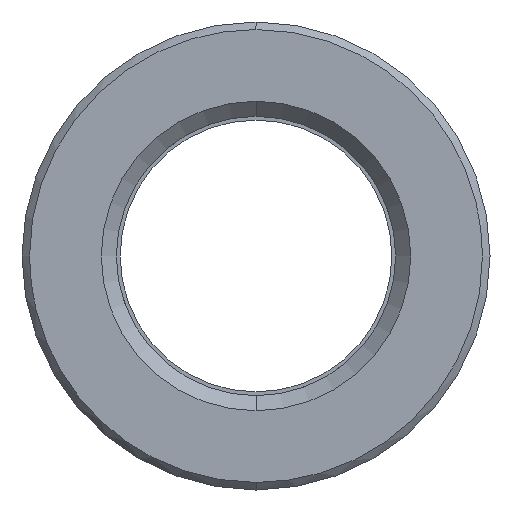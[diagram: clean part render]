
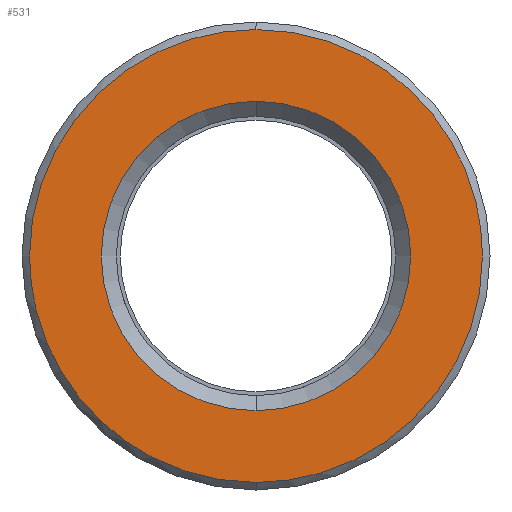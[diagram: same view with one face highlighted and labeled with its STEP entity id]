
A CAD part, left-side view. The second image highlights one B-rep face of the part: STEP entity #531.
In plain terms, the highlighted planar face has unit normal (-1, 0, 0).
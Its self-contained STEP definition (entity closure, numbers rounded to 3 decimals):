
#311=CARTESIAN_POINT('Axis2P3D Location',(0.,0.,0.)) ;
#315=CARTESIAN_POINT('Vertex',(0.,10.25,0.)) ;
#317=CARTESIAN_POINT('Vertex',(0.,0.,10.25)) ;
#320=CARTESIAN_POINT('Axis2P3D Location',(0.,0.,0.)) ;
#324=CARTESIAN_POINT('Vertex',(0.,0.,-10.25)) ;
#351=CARTESIAN_POINT('Axis2P3D Location',(0.,0.,0.)) ;
#355=CARTESIAN_POINT('Vertex',(0.,-10.25,0.)) ;
#358=CARTESIAN_POINT('Axis2P3D Location',(0.,0.,0.)) ;
#438=CARTESIAN_POINT('Axis2P3D Location',(0.,15.,0.)) ;
#444=CARTESIAN_POINT('Control Point',(0.,0.,-15.)) ;
#445=CARTESIAN_POINT('Control Point',(0.,1.359,-15.)) ;
#446=CARTESIAN_POINT('Control Point',(0.,2.718,-14.846)) ;
#447=CARTESIAN_POINT('Control Point',(0.,4.054,-14.538)) ;
#448=CARTESIAN_POINT('Control Point',(0.,6.784,-13.572)) ;
#449=CARTESIAN_POINT('Control Point',(0.,9.211,-11.985)) ;
#450=CARTESIAN_POINT('Control Point',(0.,10.379,-10.99)) ;
#451=CARTESIAN_POINT('Control Point',(0.,12.437,-8.725)) ;
#452=CARTESIAN_POINT('Control Point',(0.,13.866,-6.019)) ;
#453=CARTESIAN_POINT('Control Point',(0.,14.405,-4.583)) ;
#454=CARTESIAN_POINT('Control Point',(0.,14.829,-2.782)) ;
#455=CARTESIAN_POINT('Control Point',(0.,14.975,-0.952)) ;
#456=CARTESIAN_POINT('Control Point',(0.,14.992,-0.635)) ;
#457=CARTESIAN_POINT('Control Point',(0.,15.,-0.317)) ;
#458=CARTESIAN_POINT('Control Point',(0.,15.,0.)) ;
#459=CARTESIAN_POINT('Vertex',(0.,0.,-15.)) ;
#461=CARTESIAN_POINT('Vertex',(0.,15.,0.)) ;
#465=CARTESIAN_POINT('Control Point',(0.,-15.,0.)) ;
#466=CARTESIAN_POINT('Control Point',(0.,-15.,-1.518)) ;
#467=CARTESIAN_POINT('Control Point',(0.,-14.808,-3.036)) ;
#468=CARTESIAN_POINT('Control Point',(0.,-14.424,-4.521)) ;
#469=CARTESIAN_POINT('Control Point',(0.,-13.289,-7.363)) ;
#470=CARTESIAN_POINT('Control Point',(0.,-11.481,-9.832)) ;
#471=CARTESIAN_POINT('Control Point',(0.,-10.425,-10.945)) ;
#472=CARTESIAN_POINT('Control Point',(0.,-8.055,-12.881)) ;
#473=CARTESIAN_POINT('Control Point',(0.,-5.278,-14.165)) ;
#474=CARTESIAN_POINT('Control Point',(0.,-3.815,-14.627)) ;
#475=CARTESIAN_POINT('Control Point',(0.,-2.152,-14.927)) ;
#476=CARTESIAN_POINT('Control Point',(0.,-0.476,-14.994)) ;
#477=CARTESIAN_POINT('Control Point',(0.,-0.317,-14.998)) ;
#478=CARTESIAN_POINT('Control Point',(0.,-0.159,-15.)) ;
#479=CARTESIAN_POINT('Control Point',(0.,0.,-15.)) ;
#480=CARTESIAN_POINT('Vertex',(0.,-15.,0.)) ;
#484=CARTESIAN_POINT('Control Point',(0.,0.,15.)) ;
#485=CARTESIAN_POINT('Control Point',(0.,-1.359,15.)) ;
#486=CARTESIAN_POINT('Control Point',(0.,-2.718,14.846)) ;
#487=CARTESIAN_POINT('Control Point',(0.,-4.054,14.538)) ;
#488=CARTESIAN_POINT('Control Point',(0.,-6.784,13.572)) ;
#489=CARTESIAN_POINT('Control Point',(0.,-9.211,11.985)) ;
#490=CARTESIAN_POINT('Control Point',(0.,-10.379,10.99)) ;
#491=CARTESIAN_POINT('Control Point',(0.,-12.437,8.725)) ;
#492=CARTESIAN_POINT('Control Point',(0.,-13.866,6.019)) ;
#493=CARTESIAN_POINT('Control Point',(0.,-14.405,4.583)) ;
#494=CARTESIAN_POINT('Control Point',(0.,-14.829,2.782)) ;
#495=CARTESIAN_POINT('Control Point',(0.,-14.975,0.952)) ;
#496=CARTESIAN_POINT('Control Point',(0.,-14.992,0.635)) ;
#497=CARTESIAN_POINT('Control Point',(0.,-15.,0.317)) ;
#498=CARTESIAN_POINT('Control Point',(0.,-15.,0.)) ;
#499=CARTESIAN_POINT('Vertex',(0.,0.,15.)) ;
#503=CARTESIAN_POINT('Control Point',(0.,15.,0.)) ;
#504=CARTESIAN_POINT('Control Point',(0.,15.,1.518)) ;
#505=CARTESIAN_POINT('Control Point',(0.,14.808,3.036)) ;
#506=CARTESIAN_POINT('Control Point',(0.,14.424,4.521)) ;
#507=CARTESIAN_POINT('Control Point',(0.,13.289,7.363)) ;
#508=CARTESIAN_POINT('Control Point',(0.,11.481,9.832)) ;
#509=CARTESIAN_POINT('Control Point',(0.,10.425,10.945)) ;
#510=CARTESIAN_POINT('Control Point',(0.,8.055,12.881)) ;
#511=CARTESIAN_POINT('Control Point',(0.,5.278,14.165)) ;
#512=CARTESIAN_POINT('Control Point',(0.,3.815,14.627)) ;
#513=CARTESIAN_POINT('Control Point',(0.,2.152,14.927)) ;
#514=CARTESIAN_POINT('Control Point',(0.,0.476,14.994)) ;
#515=CARTESIAN_POINT('Control Point',(0.,0.317,14.998)) ;
#516=CARTESIAN_POINT('Control Point',(0.,0.159,15.)) ;
#517=CARTESIAN_POINT('Control Point',(0.,0.,15.)) ;
#312=DIRECTION('Axis2P3D Direction',(-1.,0.,0.)) ;
#321=DIRECTION('Axis2P3D Direction',(-1.,0.,0.)) ;
#352=DIRECTION('Axis2P3D Direction',(-1.,0.,0.)) ;
#359=DIRECTION('Axis2P3D Direction',(-1.,0.,0.)) ;
#439=DIRECTION('Axis2P3D Direction',(-1.,0.,0.)) ;
#440=DIRECTION('Axis2P3D XDirection',(0.,0.,1.)) ;
#313=AXIS2_PLACEMENT_3D('Circle Axis2P3D',#311,#312,$) ;
#322=AXIS2_PLACEMENT_3D('Circle Axis2P3D',#320,#321,$) ;
#353=AXIS2_PLACEMENT_3D('Circle Axis2P3D',#351,#352,$) ;
#360=AXIS2_PLACEMENT_3D('Circle Axis2P3D',#358,#359,$) ;
#441=AXIS2_PLACEMENT_3D('Plane Axis2P3D',#438,#439,#440) ;
#520=ORIENTED_EDGE('',*,*,#463,.F.) ;
#521=ORIENTED_EDGE('',*,*,#482,.F.) ;
#522=ORIENTED_EDGE('',*,*,#501,.F.) ;
#523=ORIENTED_EDGE('',*,*,#518,.F.) ;
#526=ORIENTED_EDGE('',*,*,#319,.T.) ;
#527=ORIENTED_EDGE('',*,*,#362,.T.) ;
#528=ORIENTED_EDGE('',*,*,#357,.T.) ;
#529=ORIENTED_EDGE('',*,*,#326,.T.) ;
#530=FACE_BOUND('',#525,.T.) ;
#531=ADVANCED_FACE('553-18X86',(#524,#530),#442,.T.) ;
#443=B_SPLINE_CURVE_WITH_KNOTS('',5,(#444,#445,#446,#447,#448,#449,#450,#451,#452,#453,#454,#455,#456,#457,#458),.UNSPECIFIED.,.F.,.U.,(6,3,3,3,6),(33.321,42.932,53.665,64.398,66.642),.UNSPECIFIED.) ;
#464=B_SPLINE_CURVE_WITH_KNOTS('',5,(#465,#466,#467,#468,#469,#470,#471,#472,#473,#474,#475,#476,#477,#478,#479),.UNSPECIFIED.,.F.,.U.,(6,3,3,3,6),(0.,10.733,21.466,32.199,33.321),.UNSPECIFIED.) ;
#483=B_SPLINE_CURVE_WITH_KNOTS('',5,(#484,#485,#486,#487,#488,#489,#490,#491,#492,#493,#494,#495,#496,#497,#498),.UNSPECIFIED.,.F.,.U.,(6,3,3,3,6),(33.321,42.932,53.665,64.398,66.642),.UNSPECIFIED.) ;
#502=B_SPLINE_CURVE_WITH_KNOTS('',5,(#503,#504,#505,#506,#507,#508,#509,#510,#511,#512,#513,#514,#515,#516,#517),.UNSPECIFIED.,.F.,.U.,(6,3,3,3,6),(0.,10.733,21.466,32.199,33.321),.UNSPECIFIED.) ;
#314=CIRCLE('generated circle',#313,10.25) ;
#323=CIRCLE('generated circle',#322,10.25) ;
#354=CIRCLE('generated circle',#353,10.25) ;
#361=CIRCLE('generated circle',#360,10.25) ;
#319=EDGE_CURVE('',#316,#318,#314,.F.) ;
#326=EDGE_CURVE('',#325,#316,#323,.F.) ;
#357=EDGE_CURVE('',#356,#325,#354,.F.) ;
#362=EDGE_CURVE('',#318,#356,#361,.F.) ;
#463=EDGE_CURVE('',#460,#462,#443,.T.) ;
#482=EDGE_CURVE('',#481,#460,#464,.T.) ;
#501=EDGE_CURVE('',#500,#481,#483,.T.) ;
#518=EDGE_CURVE('',#462,#500,#502,.T.) ;
#519=EDGE_LOOP('',(#520,#521,#522,#523)) ;
#525=EDGE_LOOP('',(#526,#527,#528,#529)) ;
#524=FACE_OUTER_BOUND('',#519,.T.) ;
#442=PLANE('Plane',#441) ;
#316=VERTEX_POINT('',#315) ;
#318=VERTEX_POINT('',#317) ;
#325=VERTEX_POINT('',#324) ;
#356=VERTEX_POINT('',#355) ;
#460=VERTEX_POINT('',#459) ;
#462=VERTEX_POINT('',#461) ;
#481=VERTEX_POINT('',#480) ;
#500=VERTEX_POINT('',#499) ;
